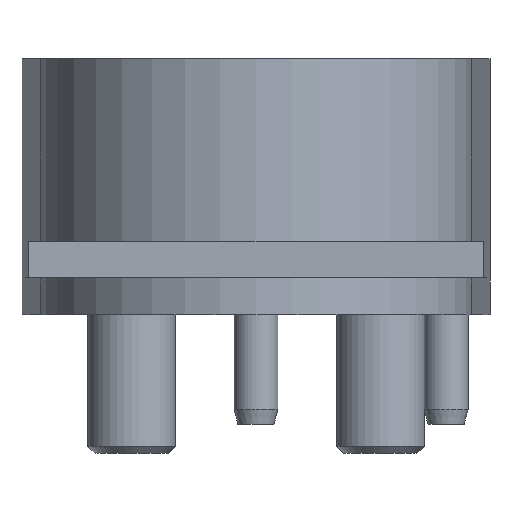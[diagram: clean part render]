
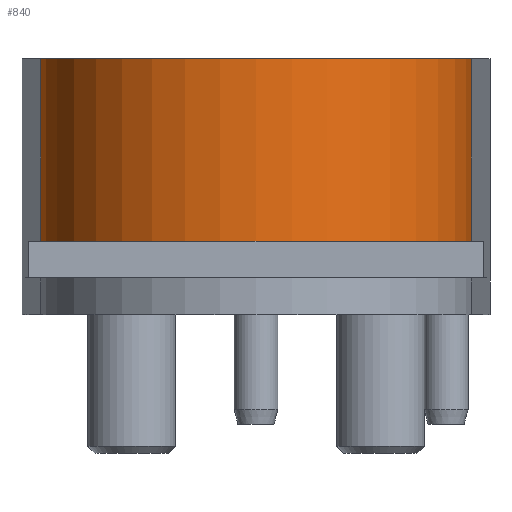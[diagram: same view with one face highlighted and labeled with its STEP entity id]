
A CAD part, left-side view. The second image highlights one B-rep face of the part: STEP entity #840.
In plain terms, the highlighted cylindrical face has radius 29.5 mm (diameter 59 mm), a partial arc.
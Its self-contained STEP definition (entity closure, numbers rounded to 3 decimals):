
#175=CYLINDRICAL_SURFACE('',#2811,29.5);
#301=FACE_OUTER_BOUND('',#1122,.T.);
#484=LINE('',#4233,#681);
#485=LINE('',#4239,#682);
#681=VECTOR('',#3412,1.);
#682=VECTOR('',#3419,1.);
#840=ADVANCED_FACE('',(#301),#175,.T.);
#1122=EDGE_LOOP('',(#1618,#1619,#1620,#1621));
#1618=ORIENTED_EDGE('',*,*,#2355,.F.);
#1619=ORIENTED_EDGE('',*,*,#2354,.T.);
#1620=ORIENTED_EDGE('',*,*,#2356,.F.);
#1621=ORIENTED_EDGE('',*,*,#2357,.F.);
#2047=VERTEX_POINT('',#4227);
#2049=VERTEX_POINT('',#4232);
#2050=VERTEX_POINT('',#4236);
#2051=VERTEX_POINT('',#4238);
#2354=EDGE_CURVE('',#2047,#2049,#484,.T.);
#2355=EDGE_CURVE('',#2047,#2050,#2566,.T.);
#2356=EDGE_CURVE('',#2051,#2049,#2567,.T.);
#2357=EDGE_CURVE('',#2050,#2051,#485,.T.);
#2566=CIRCLE('',#2809,29.5);
#2567=CIRCLE('',#2810,29.5);
#2809=AXIS2_PLACEMENT_3D('',#4235,#3415,#3416);
#2810=AXIS2_PLACEMENT_3D('',#4237,#3417,#3418);
#2811=AXIS2_PLACEMENT_3D('',#4240,#3420,#3421);
#3412=DIRECTION('',(0.,0.,1.));
#3415=DIRECTION('',(0.,0.,-1.));
#3416=DIRECTION('',(1.,0.,0.));
#3417=DIRECTION('',(0.,0.,1.));
#3418=DIRECTION('',(1.,0.,0.));
#3419=DIRECTION('',(0.,0.,1.));
#3420=DIRECTION('',(0.,0.,1.));
#3421=DIRECTION('',(-1.,0.,0.));
#4227=CARTESIAN_POINT('',(-1.989,-29.433,10.));
#4232=CARTESIAN_POINT('',(-1.989,-29.433,35.));
#4233=CARTESIAN_POINT('',(-1.989,-29.433,5.));
#4235=CARTESIAN_POINT('',(0.,0.,10.));
#4236=CARTESIAN_POINT('',(-1.989,29.433,10.));
#4237=CARTESIAN_POINT('',(0.,0.,35.));
#4238=CARTESIAN_POINT('',(-1.989,29.433,35.));
#4239=CARTESIAN_POINT('',(-1.989,29.433,5.));
#4240=CARTESIAN_POINT('',(0.,0.,0.));
